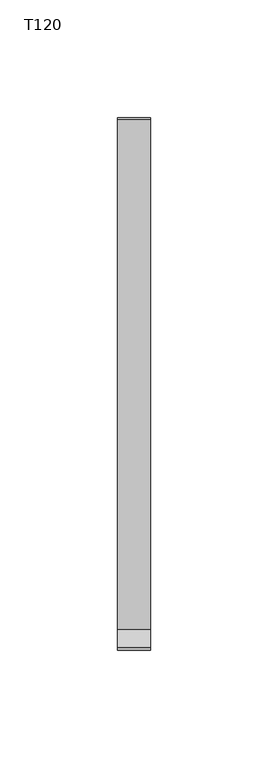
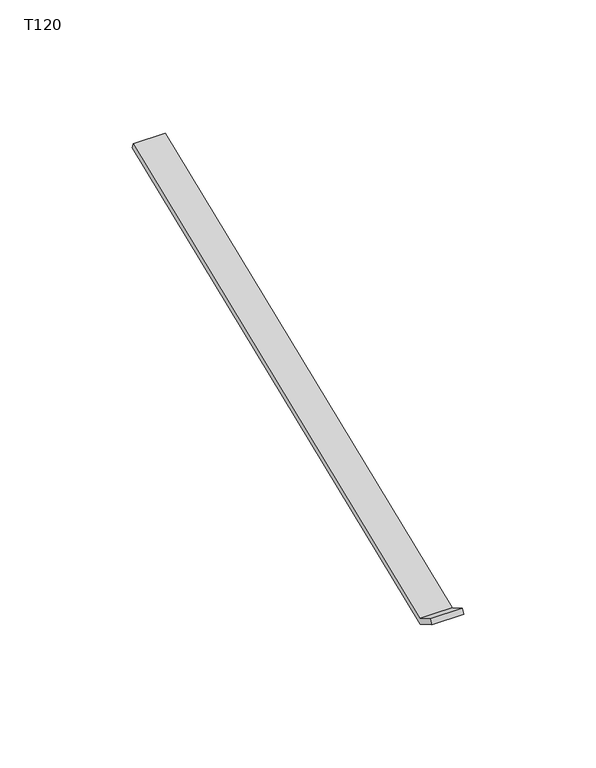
"""IFC4 building model written with IfcOpenShell, lengths in millimetres: proxy geometry, GROVIK_Gutter_Support rod : T120."""

from ifc_helpers import new_model, si_unit, frame, origin, place, context, project, spatial, polyline, outline, extrude, source, transform, mapped, element, save


def t120_630998e2(model_context):
    return source(origin(), model_context, "Body", "SweptSolid", [
        extrude(outline(polyline([(116.0882058, 88.0325495), (-101.8, 0.0), (-110.460254, 5.0), (-109.260254, 7.078461), (-101.6137331, 2.6637401), (115.18915, 90.2577907), (116.0882058, 88.0325495)])), frame((-7.0, 0.0, 0.0), z_axis=(1.0, 0.0, 0.0), x_axis=(0.0, 1.0, 0.0)), (0.0, 0.0, 1.0), 14.0),
    ])


if __name__ == "__main__":
    model = new_model("IFC4")
    model_context = context("Model", 3, world=origin())
    ifc_project = project(units=[si_unit("LENGTHUNIT", "METRE", prefix="MILLI")], contexts=[model_context])
    site = spatial("IfcSite", under=ifc_project)
    building = spatial("IfcBuilding", under=site)
    placement = place(None, origin())
    t120_shape = t120_630998e2(model_context)
    element("IfcBuildingElementProxy", 1, Name="GROVIK_Gutter_Support rod : T120", ObjectType="GROVIK_Gutter_Support rod : T120", at=placement, inside=building, context=model_context, shape_type="MappedRepresentation", body=[
        mapped(t120_shape, transform((0.0, 0.0, 0.0), x_axis=(1.0, 0.0, 0.0), y_axis=(0.0, 1.0, 0.0), z_axis=(0.0, 0.0, 1.0))),
    ])
    save(model, "model.ifc")
